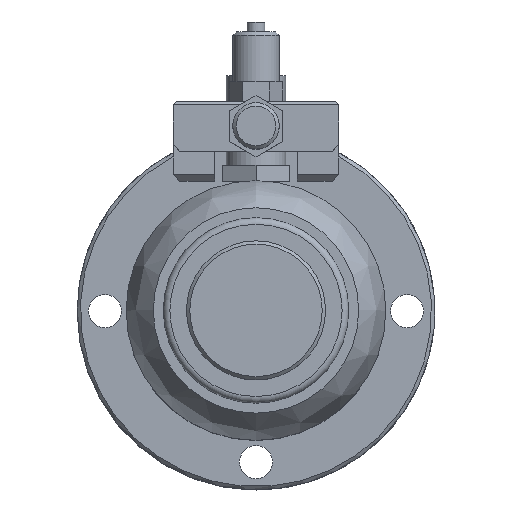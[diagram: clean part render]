
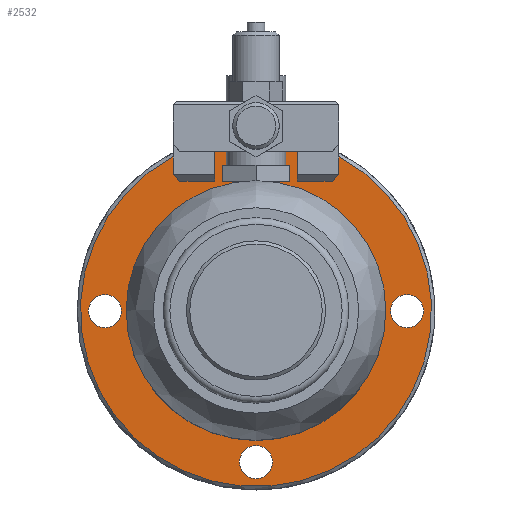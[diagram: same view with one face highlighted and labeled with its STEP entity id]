
A CAD part, top view. The second image highlights one B-rep face of the part: STEP entity #2532.
In plain terms, the highlighted planar face has unit normal (0, 0, 1).
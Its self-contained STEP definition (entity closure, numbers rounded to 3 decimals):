
#40=FACE_BOUND('',#492,.T.);
#41=FACE_BOUND('',#493,.T.);
#42=FACE_BOUND('',#494,.T.);
#43=FACE_BOUND('',#495,.T.);
#135=PLANE('',#2763);
#343=FACE_OUTER_BOUND('',#491,.T.);
#491=EDGE_LOOP('',(#2279,#2280,#2281,#2282,#2283,#2284,#2285,#2286,#2287,
#2288));
#492=EDGE_LOOP('',(#2289));
#493=EDGE_LOOP('',(#2290));
#494=EDGE_LOOP('',(#2291));
#495=EDGE_LOOP('',(#2292,#2293,#2294));
#519=CIRCLE('',#2575,19.5);
#577=CIRCLE('',#2668,27.);
#579=CIRCLE('',#2672,26.5);
#588=CIRCLE('',#2715,2.5);
#589=CIRCLE('',#2717,2.5);
#590=CIRCLE('',#2719,2.5);
#595=CIRCLE('',#2764,19.5);
#596=CIRCLE('',#2765,19.5);
#787=LINE('',#4040,#1031);
#792=LINE('',#4049,#1036);
#813=LINE('',#4090,#1057);
#816=LINE('',#4097,#1060);
#821=LINE('',#4107,#1065);
#832=LINE('',#4127,#1076);
#834=LINE('',#4130,#1078);
#841=LINE('',#4144,#1085);
#1031=VECTOR('',#3311,10.);
#1036=VECTOR('',#3318,10.);
#1057=VECTOR('',#3351,10.);
#1060=VECTOR('',#3358,10.);
#1065=VECTOR('',#3367,10.);
#1076=VECTOR('',#3384,10.);
#1078=VECTOR('',#3388,10.);
#1085=VECTOR('',#3407,10.);
#1112=VERTEX_POINT('',#3532);
#1113=VERTEX_POINT('',#3534);
#1185=VERTEX_POINT('',#3738);
#1186=VERTEX_POINT('',#3740);
#1188=VERTEX_POINT('',#3746);
#1189=VERTEX_POINT('',#3750);
#1246=VERTEX_POINT('',#3928);
#1247=VERTEX_POINT('',#3932);
#1248=VERTEX_POINT('',#3936);
#1283=VERTEX_POINT('',#4038);
#1286=VERTEX_POINT('',#4048);
#1300=VERTEX_POINT('',#4088);
#1302=VERTEX_POINT('',#4095);
#1305=VERTEX_POINT('',#4106);
#1311=VERTEX_POINT('',#4126);
#1313=VERTEX_POINT('',#4147);
#1350=EDGE_CURVE('',#1113,#1112,#519,.T.);
#1449=EDGE_CURVE('',#1186,#1185,#577,.T.);
#1454=EDGE_CURVE('',#1189,#1188,#579,.T.);
#1539=EDGE_CURVE('',#1246,#1246,#588,.T.);
#1541=EDGE_CURVE('',#1247,#1247,#589,.T.);
#1543=EDGE_CURVE('',#1248,#1248,#590,.T.);
#1593=EDGE_CURVE('',#1189,#1283,#787,.T.);
#1598=EDGE_CURVE('',#1286,#1188,#792,.T.);
#1619=EDGE_CURVE('',#1185,#1300,#813,.T.);
#1622=EDGE_CURVE('',#1302,#1283,#816,.F.);
#1627=EDGE_CURVE('',#1305,#1186,#821,.T.);
#1638=EDGE_CURVE('',#1286,#1311,#832,.F.);
#1640=EDGE_CURVE('',#1300,#1311,#834,.T.);
#1647=EDGE_CURVE('',#1302,#1305,#841,.T.);
#1648=EDGE_CURVE('',#1313,#1113,#595,.T.);
#1649=EDGE_CURVE('',#1112,#1313,#596,.T.);
#2279=ORIENTED_EDGE('',*,*,#1454,.F.);
#2280=ORIENTED_EDGE('',*,*,#1593,.T.);
#2281=ORIENTED_EDGE('',*,*,#1622,.F.);
#2282=ORIENTED_EDGE('',*,*,#1647,.T.);
#2283=ORIENTED_EDGE('',*,*,#1627,.T.);
#2284=ORIENTED_EDGE('',*,*,#1449,.T.);
#2285=ORIENTED_EDGE('',*,*,#1619,.T.);
#2286=ORIENTED_EDGE('',*,*,#1640,.T.);
#2287=ORIENTED_EDGE('',*,*,#1638,.F.);
#2288=ORIENTED_EDGE('',*,*,#1598,.T.);
#2289=ORIENTED_EDGE('',*,*,#1539,.T.);
#2290=ORIENTED_EDGE('',*,*,#1541,.T.);
#2291=ORIENTED_EDGE('',*,*,#1543,.T.);
#2292=ORIENTED_EDGE('',*,*,#1648,.T.);
#2293=ORIENTED_EDGE('',*,*,#1350,.T.);
#2294=ORIENTED_EDGE('',*,*,#1649,.T.);
#2532=ADVANCED_FACE('',(#343,#40,#41,#42,#43),#135,.T.);
#2575=AXIS2_PLACEMENT_3D('',#3535,#2816,#2817);
#2668=AXIS2_PLACEMENT_3D('',#3741,#3042,#3043);
#2672=AXIS2_PLACEMENT_3D('',#3754,#3050,#3051);
#2715=AXIS2_PLACEMENT_3D('',#3930,#3212,#3213);
#2717=AXIS2_PLACEMENT_3D('',#3934,#3217,#3218);
#2719=AXIS2_PLACEMENT_3D('',#3938,#3222,#3223);
#2763=AXIS2_PLACEMENT_3D('',#4146,#3410,#3411);
#2764=AXIS2_PLACEMENT_3D('',#4148,#3412,#3413);
#2765=AXIS2_PLACEMENT_3D('',#4149,#3414,#3415);
#2816=DIRECTION('center_axis',(0.,0.,-1.));
#2817=DIRECTION('ref_axis',(1.,0.,0.));
#3042=DIRECTION('center_axis',(0.,0.,1.));
#3043=DIRECTION('ref_axis',(1.,0.,0.));
#3050=DIRECTION('center_axis',(0.,0.,-1.));
#3051=DIRECTION('ref_axis',(1.,0.,0.));
#3212=DIRECTION('center_axis',(0.,0.,-1.));
#3213=DIRECTION('ref_axis',(-1.,0.,0.));
#3217=DIRECTION('center_axis',(0.,0.,-1.));
#3218=DIRECTION('ref_axis',(-1.,0.,0.));
#3222=DIRECTION('center_axis',(0.,0.,-1.));
#3223=DIRECTION('ref_axis',(-1.,0.,0.));
#3311=DIRECTION('',(0.,-1.,0.));
#3318=DIRECTION('',(0.,1.,0.));
#3351=DIRECTION('',(0.,-1.,0.));
#3358=DIRECTION('',(-0.707,-0.707,0.));
#3367=DIRECTION('',(0.,1.,0.));
#3384=DIRECTION('',(-0.707,0.707,0.));
#3388=DIRECTION('',(-1.,0.,0.));
#3407=DIRECTION('',(-1.,0.,0.));
#3410=DIRECTION('center_axis',(0.,0.,1.));
#3411=DIRECTION('ref_axis',(1.,0.,0.));
#3412=DIRECTION('center_axis',(0.,0.,-1.));
#3413=DIRECTION('ref_axis',(1.,0.,0.));
#3414=DIRECTION('center_axis',(0.,0.,-1.));
#3415=DIRECTION('ref_axis',(1.,0.,0.));
#3532=CARTESIAN_POINT('',(0.,19.5,5.));
#3534=CARTESIAN_POINT('',(-19.5,0.,5.));
#3535=CARTESIAN_POINT('Origin',(0.,0.,5.));
#3738=CARTESIAN_POINT('',(-6.25,26.267,5.));
#3740=CARTESIAN_POINT('',(6.25,26.267,5.));
#3741=CARTESIAN_POINT('Origin',(0.,0.,5.));
#3746=CARTESIAN_POINT('',(-12.5,23.367,5.));
#3750=CARTESIAN_POINT('',(12.5,23.367,5.));
#3754=CARTESIAN_POINT('Origin',(0.,0.,5.));
#3928=CARTESIAN_POINT('',(2.5,-22.8,5.));
#3930=CARTESIAN_POINT('Origin',(0.,-22.8,5.));
#3932=CARTESIAN_POINT('',(-20.3,0.,5.));
#3934=CARTESIAN_POINT('Origin',(-22.8,0.,5.));
#3936=CARTESIAN_POINT('',(25.3,0.,5.));
#3938=CARTESIAN_POINT('Origin',(22.8,0.,5.));
#4038=CARTESIAN_POINT('',(12.5,20.6,5.));
#4040=CARTESIAN_POINT('',(12.5,9.8,5.));
#4048=CARTESIAN_POINT('',(-12.5,20.6,5.));
#4049=CARTESIAN_POINT('',(-12.5,9.8,5.));
#4088=CARTESIAN_POINT('',(-6.25,19.6,5.));
#4090=CARTESIAN_POINT('',(-6.25,9.8,5.));
#4095=CARTESIAN_POINT('',(11.5,19.6,5.));
#4097=CARTESIAN_POINT('',(3.975,12.075,5.));
#4106=CARTESIAN_POINT('',(6.25,19.6,5.));
#4107=CARTESIAN_POINT('',(6.25,9.8,5.));
#4126=CARTESIAN_POINT('',(-11.5,19.6,5.));
#4127=CARTESIAN_POINT('',(-3.975,12.075,5.));
#4130=CARTESIAN_POINT('',(0.,19.6,5.));
#4144=CARTESIAN_POINT('',(0.,19.6,5.));
#4146=CARTESIAN_POINT('Origin',(0.,0.,5.));
#4147=CARTESIAN_POINT('',(19.5,0.,5.));
#4148=CARTESIAN_POINT('Origin',(0.,0.,5.));
#4149=CARTESIAN_POINT('Origin',(0.,0.,5.));
